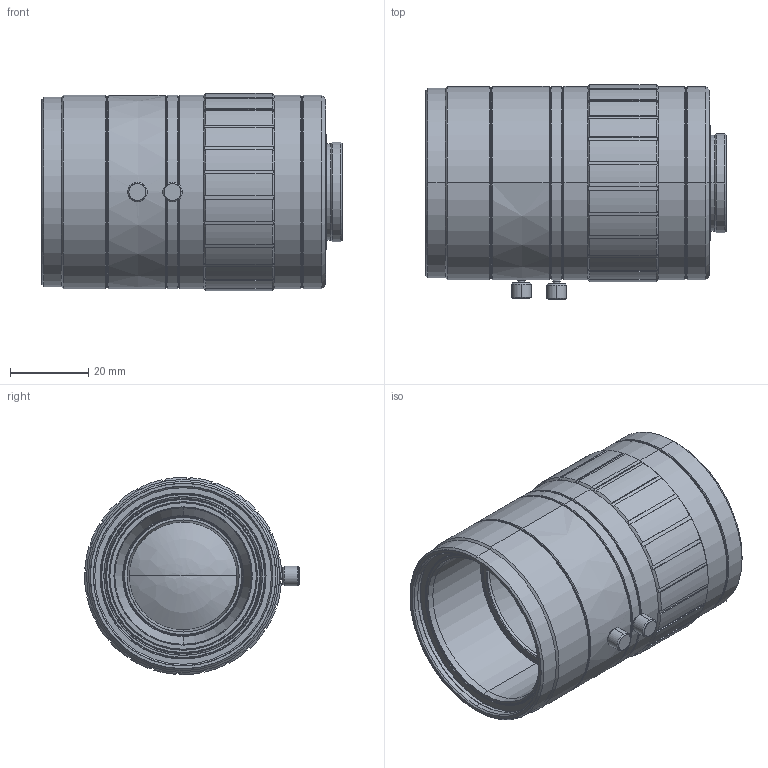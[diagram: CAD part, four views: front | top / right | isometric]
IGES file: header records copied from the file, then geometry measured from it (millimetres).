
Start section: SolidWorks IGES file using analytic representation for surfaces
Bounding box: 76.97 x 55.03 x 50.5 mm (x, y, z)
Surface area: 26056.3 mm2 (no closed solid volume)
Topology: 0 solids, 0 shells, 299 faces, 4602 edges, 4600 vertices
Faces by surface type: revolution 197, bspline 102
